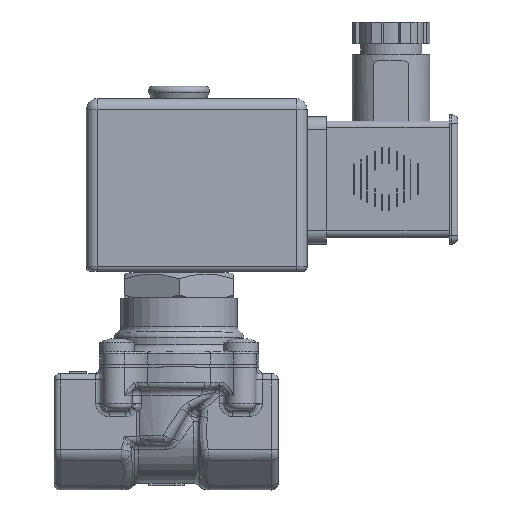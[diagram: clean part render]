
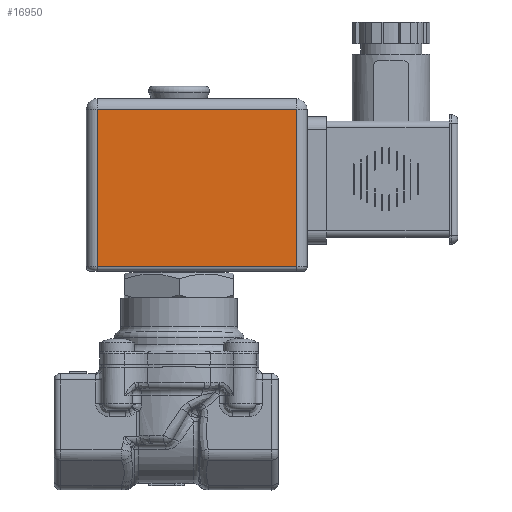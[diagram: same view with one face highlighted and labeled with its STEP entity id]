
A CAD part, top view. The second image highlights one B-rep face of the part: STEP entity #16950.
In plain terms, the highlighted planar face has unit normal (0, 0, 1).
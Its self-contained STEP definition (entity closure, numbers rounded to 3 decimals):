
#974=PLANE('',#18460);
#1860=FACE_OUTER_BOUND('',#2926,.T.);
#2926=EDGE_LOOP('',(#13909,#13910,#13911,#13912));
#3935=LINE('',#39991,#5166);
#3936=LINE('',#39994,#5167);
#3937=LINE('',#39996,#5168);
#3938=LINE('',#39997,#5169);
#5166=VECTOR('',#21953,36.5);
#5167=VECTOR('',#21956,46.2);
#5168=VECTOR('',#21957,46.2);
#5169=VECTOR('',#21958,36.5);
#7650=VERTEX_POINT('',#39982);
#7652=VERTEX_POINT('',#39989);
#7653=VERTEX_POINT('',#39993);
#7654=VERTEX_POINT('',#39995);
#9847=EDGE_CURVE('',#7650,#7652,#3935,.T.);
#9848=EDGE_CURVE('',#7653,#7650,#3936,.T.);
#9849=EDGE_CURVE('',#7654,#7652,#3937,.T.);
#9850=EDGE_CURVE('',#7654,#7653,#3938,.T.);
#13909=ORIENTED_EDGE('',*,*,#9848,.T.);
#13910=ORIENTED_EDGE('',*,*,#9847,.T.);
#13911=ORIENTED_EDGE('',*,*,#9849,.F.);
#13912=ORIENTED_EDGE('',*,*,#9850,.T.);
#16950=ADVANCED_FACE('',(#1860),#974,.T.);
#18460=AXIS2_PLACEMENT_3D('',#39992,#21954,#21955);
#21953=DIRECTION('',(0.,1.,0.));
#21954=DIRECTION('center_axis',(0.,0.,1.));
#21955=DIRECTION('ref_axis',(1.,0.,0.));
#21956=DIRECTION('',(1.,0.,0.));
#21957=DIRECTION('',(1.,0.,0.));
#21958=DIRECTION('',(0.,-1.,0.));
#39982=CARTESIAN_POINT('',(27.2,38.265,22.75));
#39989=CARTESIAN_POINT('',(27.2,74.765,22.75));
#39991=CARTESIAN_POINT('',(27.2,38.265,22.75));
#39992=CARTESIAN_POINT('Origin',(4.1,56.515,22.75));
#39993=CARTESIAN_POINT('',(-19.,38.265,22.75));
#39994=CARTESIAN_POINT('',(-19.,38.265,22.75));
#39995=CARTESIAN_POINT('',(-19.,74.765,22.75));
#39996=CARTESIAN_POINT('',(-19.,74.765,22.75));
#39997=CARTESIAN_POINT('',(-19.,74.765,22.75));
